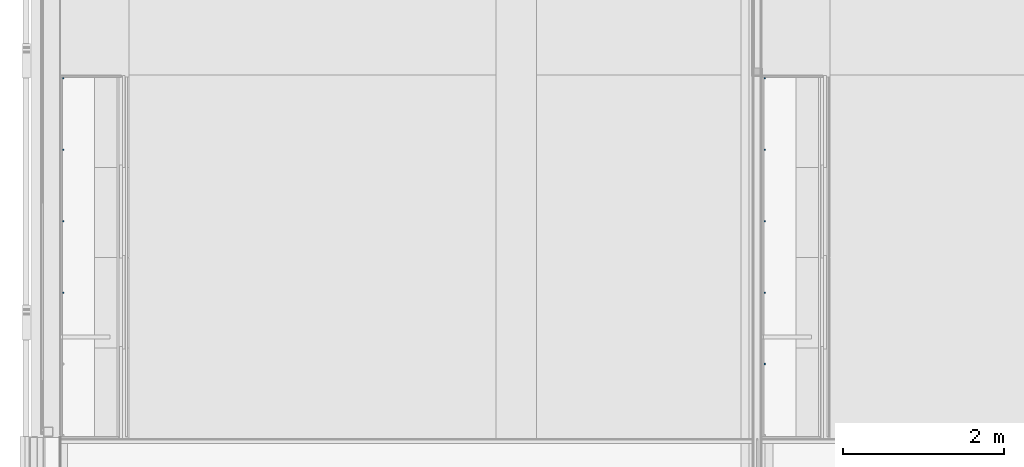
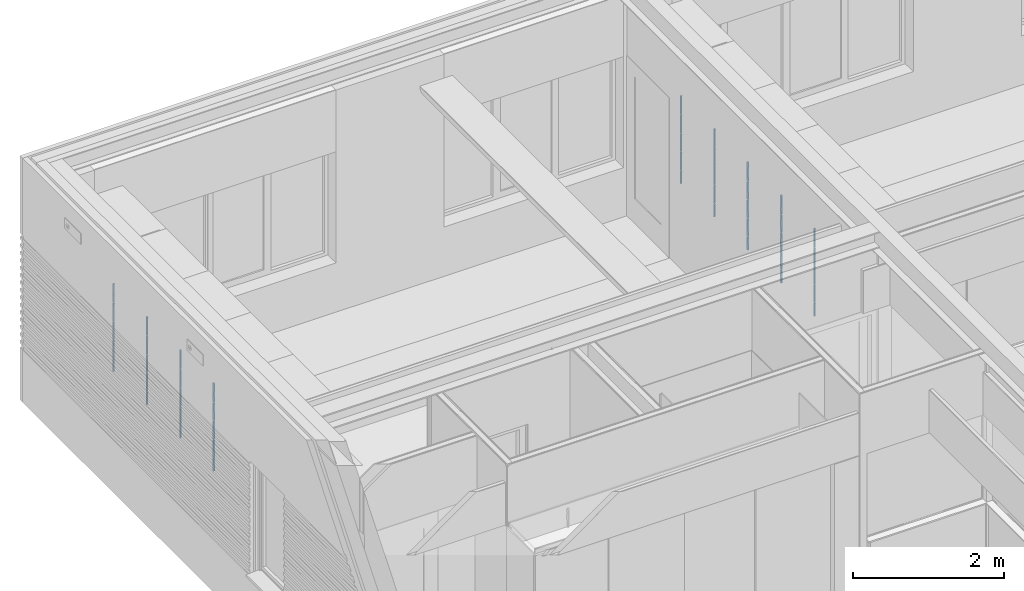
# One storey, part 9 of 137: 9 columns.
"""IFC2X3 building model written with IfcOpenShell, lengths in millimetres."""

from ifc_helpers import new_model, entity, si_unit, converted_unit, derived_unit, money_unit, direction, frame, origin_with_axes, place, context, subcontext, project, spatial, faceted_brep, material, type_object, element, save


model = new_model("IFC2X3")

# Units and contexts
model_context = context("Model", 3, precision=0.01, world=origin_with_axes(), true_north=direction((0.0, 1.0)))
body_context = subcontext(model_context, "Body", "Model", "MODEL_VIEW")
ifc_project = project(units=[si_unit("LENGTHUNIT", "METRE", prefix="MILLI"), si_unit("AREAUNIT", "SQUARE_METRE"), si_unit("VOLUMEUNIT", "CUBIC_METRE"), converted_unit("PLANEANGLEUNIT", "DEGREE", entity("IfcPlaneAngleMeasure", 0.0174532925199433), si_unit("PLANEANGLEUNIT", "RADIAN"), dimensions=[0, 0, 0, 0, 0, 0, 0]), money_unit("EUR"), converted_unit("TIMEUNIT", "Year", entity("IfcTimeMeasure", 31556926.0), si_unit("TIMEUNIT", "SECOND"), dimensions=[0, 0, 1, 0, 0, 0, 0]), si_unit("MASSUNIT", "GRAM", prefix="KILO"), si_unit("THERMODYNAMICTEMPERATUREUNIT", "DEGREE_CELSIUS"), si_unit("LUMINOUSINTENSITYUNIT", "LUMEN"), si_unit("ENERGYUNIT", "JOULE", prefix="MEGA"), derived_unit("THERMALCONDUCTANCEUNIT", [(si_unit("POWERUNIT", "WATT"), 1), (si_unit("LENGTHUNIT", "METRE"), -1), (si_unit("THERMODYNAMICTEMPERATUREUNIT", "KELVIN"), -1)]), derived_unit("SPECIFICHEATCAPACITYUNIT", [(si_unit("ENERGYUNIT", "JOULE"), 1), (si_unit("MASSUNIT", "GRAM", prefix="KILO"), -1), (si_unit("THERMODYNAMICTEMPERATUREUNIT", "KELVIN"), -1)]), derived_unit("MASSDENSITYUNIT", [(si_unit("MASSUNIT", "GRAM", prefix="KILO"), 1), (si_unit("VOLUMEUNIT", "CUBIC_METRE"), -1)])], contexts=[model_context])

# Site, building, storey
site_placement = place(None, origin_with_axes())
site = spatial("IfcSite", under=ifc_project, at=site_placement, Name="Site", CompositionType="ELEMENT")
building_placement = place(site_placement, origin_with_axes())
building = spatial("IfcBuilding", under=site, at=building_placement, Name="Naam gebouw", CompositionType="ELEMENT")
storey_placement = place(building_placement, frame((0.0, 0.0, 3960.0), z_axis=(0.0, 0.0, 1.0), x_axis=(1.0, 0.0, 0.0)))
storey = spatial("IfcBuildingStorey", under=building, at=storey_placement, Name="1e verdieping", CompositionType="ELEMENT", Elevation=3960.0)

# Columns
ifc_material = material(Name="ALG - ALGEMEEN")
column_type = type_object("IfcColumnType", Name="ALG - ALGEMEEN 20 x 20", PredefinedType="COLUMN")
column_1_placement = place(storey_placement, frame((8942.500000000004, 25134.99984707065, 1182.0), z_axis=(0.0, 0.0, 1.0), x_axis=(1.0, 0.0, 0.0)))
element("IfcColumn", 1, at=column_1_placement, inside=storey, type_object=column_type, material=ifc_material, Name="28_Kolom-x", ObjectType="COLUMN", context=body_context, shape_type="Brep", body=[
    faceted_brep([(-8.000000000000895, 9.99999999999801, 0.0), (-8.000000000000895, 9.99999999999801, 198.0000000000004), (9.999999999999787, 9.99999999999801, 198.0000000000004), (9.999999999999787, 9.99999999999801, 0.0), (-8.000000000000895, -10.00000000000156, 0.0), (-8.000000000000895, -10.00000000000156, 198.0000000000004), (9.999999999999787, -10.00000000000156, 198.0000000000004), (9.999999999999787, -10.00000000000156, 0.0)], [[[0, 1, 2, 3]], [[4, 5, 1, 0]], [[5, 6, 2, 1]], [[3, 2, 6, 7]], [[3, 7, 4, 0]], [[7, 6, 5, 4]]]),
    faceted_brep([(9.999999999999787, -10.00000000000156, 1418.000000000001), (9.999999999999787, -10.00000000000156, 1118.0), (9.999999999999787, 9.99999999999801, 1118.0), (9.999999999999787, 9.99999999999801, 1418.000000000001), (-8.000000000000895, -10.00000000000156, 1418.000000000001), (-8.000000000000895, -10.00000000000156, 1118.0), (-8.000000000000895, 9.99999999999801, 1118.0), (-8.000000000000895, 9.99999999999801, 1418.000000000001)], [[[0, 1, 2, 3]], [[4, 5, 1, 0]], [[5, 6, 2, 1]], [[3, 2, 6, 7]], [[0, 3, 7, 4]], [[7, 6, 5, 4]]]),
    faceted_brep([(9.999999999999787, -10.00000000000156, 1098.000000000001), (9.999999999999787, -10.00000000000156, 818.0000000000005), (9.999999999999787, 9.99999999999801, 818.0000000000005), (9.999999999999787, 9.99999999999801, 1098.000000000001), (-8.000000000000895, -10.00000000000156, 1098.000000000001), (-8.000000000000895, -10.00000000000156, 818.0000000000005), (-8.000000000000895, 9.99999999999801, 818.0000000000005), (-8.000000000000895, 9.99999999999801, 1098.000000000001)], [[[0, 1, 2, 3]], [[4, 5, 1, 0]], [[5, 6, 2, 1]], [[3, 2, 6, 7]], [[4, 0, 3, 7]], [[7, 6, 5, 4]]]),
    faceted_brep([(9.999999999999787, -10.00000000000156, 798.0000000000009), (9.999999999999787, -10.00000000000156, 518.0000000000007), (9.999999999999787, 9.99999999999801, 518.0000000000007), (9.999999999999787, 9.99999999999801, 798.0000000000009), (-8.000000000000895, -10.00000000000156, 798.0000000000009), (-8.000000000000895, -10.00000000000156, 518.0000000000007), (-8.000000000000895, 9.99999999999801, 518.0000000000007), (-8.000000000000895, 9.99999999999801, 798.0000000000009)], [[[0, 1, 2, 3]], [[4, 5, 1, 0]], [[5, 6, 2, 1]], [[3, 2, 6, 7]], [[4, 0, 3, 7]], [[7, 6, 5, 4]]]),
    faceted_brep([(9.999999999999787, -10.00000000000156, 498.0000000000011), (9.999999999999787, -10.00000000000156, 218.0), (9.999999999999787, 9.99999999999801, 218.0), (9.999999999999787, 9.99999999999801, 498.0000000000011), (-8.000000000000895, -10.00000000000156, 498.0000000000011), (-8.000000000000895, -10.00000000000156, 218.0), (-8.000000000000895, 9.99999999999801, 218.0), (-8.000000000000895, 9.99999999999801, 498.0000000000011)], [[[0, 1, 2, 3]], [[4, 5, 1, 0]], [[5, 6, 2, 1]], [[3, 2, 6, 7]], [[4, 0, 3, 7]], [[7, 6, 5, 4]]]),
])
column_2_placement = place(storey_placement, frame((8942.500000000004, 26020.99984707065, 1182.0), z_axis=(0.0, 0.0, 1.0), x_axis=(1.0, 0.0, 0.0)))
element("IfcColumn", 2, at=column_2_placement, inside=storey, type_object=column_type, material=ifc_material, Name="28_Kolom-x", ObjectType="COLUMN", context=body_context, shape_type="Brep", body=[
    faceted_brep([(-8.000000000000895, 9.99999999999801, 0.0), (-8.000000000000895, 9.99999999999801, 198.0000000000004), (9.999999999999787, 9.99999999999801, 198.0000000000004), (9.999999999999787, 9.99999999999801, 0.0), (-8.000000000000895, -10.00000000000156, 0.0), (-8.000000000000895, -10.00000000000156, 198.0000000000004), (9.999999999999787, -10.00000000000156, 198.0000000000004), (9.999999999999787, -10.00000000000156, 0.0)], [[[0, 1, 2, 3]], [[4, 5, 1, 0]], [[5, 6, 2, 1]], [[3, 2, 6, 7]], [[3, 7, 4, 0]], [[7, 6, 5, 4]]]),
    faceted_brep([(9.999999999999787, -10.00000000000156, 1418.000000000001), (9.999999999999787, -10.00000000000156, 1118.0), (9.999999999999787, 9.99999999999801, 1118.0), (9.999999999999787, 9.99999999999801, 1418.000000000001), (-8.000000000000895, -10.00000000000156, 1418.000000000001), (-8.000000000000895, -10.00000000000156, 1118.0), (-8.000000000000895, 9.99999999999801, 1118.0), (-8.000000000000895, 9.99999999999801, 1418.000000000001)], [[[0, 1, 2, 3]], [[4, 5, 1, 0]], [[5, 6, 2, 1]], [[3, 2, 6, 7]], [[0, 3, 7, 4]], [[7, 6, 5, 4]]]),
    faceted_brep([(9.999999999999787, -10.00000000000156, 1098.000000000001), (9.999999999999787, -10.00000000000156, 818.0000000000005), (9.999999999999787, 9.99999999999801, 818.0000000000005), (9.999999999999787, 9.99999999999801, 1098.000000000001), (-8.000000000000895, -10.00000000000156, 1098.000000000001), (-8.000000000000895, -10.00000000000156, 818.0000000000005), (-8.000000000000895, 9.99999999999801, 818.0000000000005), (-8.000000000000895, 9.99999999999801, 1098.000000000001)], [[[0, 1, 2, 3]], [[4, 5, 1, 0]], [[5, 6, 2, 1]], [[3, 2, 6, 7]], [[4, 0, 3, 7]], [[7, 6, 5, 4]]]),
    faceted_brep([(9.999999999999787, -10.00000000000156, 798.0000000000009), (9.999999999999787, -10.00000000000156, 518.0000000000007), (9.999999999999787, 9.99999999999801, 518.0000000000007), (9.999999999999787, 9.99999999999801, 798.0000000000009), (-8.000000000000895, -10.00000000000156, 798.0000000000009), (-8.000000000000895, -10.00000000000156, 518.0000000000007), (-8.000000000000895, 9.99999999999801, 518.0000000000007), (-8.000000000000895, 9.99999999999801, 798.0000000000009)], [[[0, 1, 2, 3]], [[4, 5, 1, 0]], [[5, 6, 2, 1]], [[3, 2, 6, 7]], [[4, 0, 3, 7]], [[7, 6, 5, 4]]]),
    faceted_brep([(9.999999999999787, -10.00000000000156, 498.0000000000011), (9.999999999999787, -10.00000000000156, 218.0), (9.999999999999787, 9.99999999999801, 218.0), (9.999999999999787, 9.99999999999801, 498.0000000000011), (-8.000000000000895, -10.00000000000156, 498.0000000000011), (-8.000000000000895, -10.00000000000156, 218.0), (-8.000000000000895, 9.99999999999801, 218.0), (-8.000000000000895, 9.99999999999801, 498.0000000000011)], [[[0, 1, 2, 3]], [[4, 5, 1, 0]], [[5, 6, 2, 1]], [[3, 2, 6, 7]], [[4, 0, 3, 7]], [[7, 6, 5, 4]]]),
])
column_3_placement = place(storey_placement, frame((8942.500000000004, 26906.99984707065, 1182.0), z_axis=(0.0, 0.0, 1.0), x_axis=(1.0, 0.0, 0.0)))
element("IfcColumn", 3, at=column_3_placement, inside=storey, type_object=column_type, material=ifc_material, Name="28_Kolom-x", ObjectType="COLUMN", context=body_context, shape_type="Brep", body=[
    faceted_brep([(-8.000000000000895, 9.99999999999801, 0.0), (-8.000000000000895, 9.99999999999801, 198.0000000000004), (9.999999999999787, 9.99999999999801, 198.0000000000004), (9.999999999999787, 9.99999999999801, 0.0), (-8.000000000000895, -10.00000000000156, 0.0), (-8.000000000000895, -10.00000000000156, 198.0000000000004), (9.999999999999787, -10.00000000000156, 198.0000000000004), (9.999999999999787, -10.00000000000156, 0.0)], [[[0, 1, 2, 3]], [[4, 5, 1, 0]], [[5, 6, 2, 1]], [[3, 2, 6, 7]], [[3, 7, 4, 0]], [[7, 6, 5, 4]]]),
    faceted_brep([(9.999999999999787, -10.00000000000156, 1418.000000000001), (9.999999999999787, -10.00000000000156, 1118.0), (9.999999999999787, 9.99999999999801, 1118.0), (9.999999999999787, 9.99999999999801, 1418.000000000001), (-8.000000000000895, -10.00000000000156, 1418.000000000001), (-8.000000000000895, -10.00000000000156, 1118.0), (-8.000000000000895, 9.99999999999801, 1118.0), (-8.000000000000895, 9.99999999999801, 1418.000000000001)], [[[0, 1, 2, 3]], [[4, 5, 1, 0]], [[5, 6, 2, 1]], [[3, 2, 6, 7]], [[0, 3, 7, 4]], [[7, 6, 5, 4]]]),
    faceted_brep([(9.999999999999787, -10.00000000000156, 1098.000000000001), (9.999999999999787, -10.00000000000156, 818.0000000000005), (9.999999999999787, 9.99999999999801, 818.0000000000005), (9.999999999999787, 9.99999999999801, 1098.000000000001), (-8.000000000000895, -10.00000000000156, 1098.000000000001), (-8.000000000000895, -10.00000000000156, 818.0000000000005), (-8.000000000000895, 9.99999999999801, 818.0000000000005), (-8.000000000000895, 9.99999999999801, 1098.000000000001)], [[[0, 1, 2, 3]], [[4, 5, 1, 0]], [[5, 6, 2, 1]], [[3, 2, 6, 7]], [[4, 0, 3, 7]], [[7, 6, 5, 4]]]),
    faceted_brep([(9.999999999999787, -10.00000000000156, 798.0000000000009), (9.999999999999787, -10.00000000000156, 518.0000000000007), (9.999999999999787, 9.99999999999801, 518.0000000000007), (9.999999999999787, 9.99999999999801, 798.0000000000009), (-8.000000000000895, -10.00000000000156, 798.0000000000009), (-8.000000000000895, -10.00000000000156, 518.0000000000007), (-8.000000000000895, 9.99999999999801, 518.0000000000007), (-8.000000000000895, 9.99999999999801, 798.0000000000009)], [[[0, 1, 2, 3]], [[4, 5, 1, 0]], [[5, 6, 2, 1]], [[3, 2, 6, 7]], [[4, 0, 3, 7]], [[7, 6, 5, 4]]]),
    faceted_brep([(9.999999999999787, -10.00000000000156, 498.0000000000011), (9.999999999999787, -10.00000000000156, 218.0), (9.999999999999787, 9.99999999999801, 218.0), (9.999999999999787, 9.99999999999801, 498.0000000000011), (-8.000000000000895, -10.00000000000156, 498.0000000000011), (-8.000000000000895, -10.00000000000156, 218.0), (-8.000000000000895, 9.99999999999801, 218.0), (-8.000000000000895, 9.99999999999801, 498.0000000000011)], [[[0, 1, 2, 3]], [[4, 5, 1, 0]], [[5, 6, 2, 1]], [[3, 2, 6, 7]], [[4, 0, 3, 7]], [[7, 6, 5, 4]]]),
])
column_4_placement = place(storey_placement, frame((8942.500000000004, 27792.99984707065, 1182.0), z_axis=(0.0, 0.0, 1.0), x_axis=(1.0, 0.0, 0.0)))
element("IfcColumn", 4, at=column_4_placement, inside=storey, type_object=column_type, material=ifc_material, Name="28_Kolom-x", ObjectType="COLUMN", context=body_context, shape_type="Brep", body=[
    faceted_brep([(-8.000000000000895, 9.99999999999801, 0.0), (-8.000000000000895, 9.99999999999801, 198.0000000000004), (9.999999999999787, 9.99999999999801, 198.0000000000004), (9.999999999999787, 9.99999999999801, 0.0), (-8.000000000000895, -10.00000000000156, 0.0), (-8.000000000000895, -10.00000000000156, 198.0000000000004), (9.999999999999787, -10.00000000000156, 198.0000000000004), (9.999999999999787, -10.00000000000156, 0.0)], [[[0, 1, 2, 3]], [[4, 5, 1, 0]], [[5, 6, 2, 1]], [[3, 2, 6, 7]], [[3, 7, 4, 0]], [[7, 6, 5, 4]]]),
    faceted_brep([(9.999999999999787, -10.00000000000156, 1418.000000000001), (9.999999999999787, -10.00000000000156, 1118.0), (9.999999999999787, 9.99999999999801, 1118.0), (9.999999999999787, 9.99999999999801, 1418.000000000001), (-8.000000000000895, -10.00000000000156, 1418.000000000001), (-8.000000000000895, -10.00000000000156, 1118.0), (-8.000000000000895, 9.99999999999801, 1118.0), (-8.000000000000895, 9.99999999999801, 1418.000000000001)], [[[0, 1, 2, 3]], [[4, 5, 1, 0]], [[5, 6, 2, 1]], [[3, 2, 6, 7]], [[0, 3, 7, 4]], [[7, 6, 5, 4]]]),
    faceted_brep([(9.999999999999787, -10.00000000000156, 1098.000000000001), (9.999999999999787, -10.00000000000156, 818.0000000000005), (9.999999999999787, 9.99999999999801, 818.0000000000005), (9.999999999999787, 9.99999999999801, 1098.000000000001), (-8.000000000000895, -10.00000000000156, 1098.000000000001), (-8.000000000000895, -10.00000000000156, 818.0000000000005), (-8.000000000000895, 9.99999999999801, 818.0000000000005), (-8.000000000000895, 9.99999999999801, 1098.000000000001)], [[[0, 1, 2, 3]], [[4, 5, 1, 0]], [[5, 6, 2, 1]], [[3, 2, 6, 7]], [[4, 0, 3, 7]], [[7, 6, 5, 4]]]),
    faceted_brep([(9.999999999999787, -10.00000000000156, 798.0000000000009), (9.999999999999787, -10.00000000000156, 518.0000000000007), (9.999999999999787, 9.99999999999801, 518.0000000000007), (9.999999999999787, 9.99999999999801, 798.0000000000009), (-8.000000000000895, -10.00000000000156, 798.0000000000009), (-8.000000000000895, -10.00000000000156, 518.0000000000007), (-8.000000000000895, 9.99999999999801, 518.0000000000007), (-8.000000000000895, 9.99999999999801, 798.0000000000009)], [[[0, 1, 2, 3]], [[4, 5, 1, 0]], [[5, 6, 2, 1]], [[3, 2, 6, 7]], [[4, 0, 3, 7]], [[7, 6, 5, 4]]]),
    faceted_brep([(9.999999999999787, -10.00000000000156, 498.0000000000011), (9.999999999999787, -10.00000000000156, 218.0), (9.999999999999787, 9.99999999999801, 218.0), (9.999999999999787, 9.99999999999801, 498.0000000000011), (-8.000000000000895, -10.00000000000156, 498.0000000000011), (-8.000000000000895, -10.00000000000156, 218.0), (-8.000000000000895, 9.99999999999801, 218.0), (-8.000000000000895, 9.99999999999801, 498.0000000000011)], [[[0, 1, 2, 3]], [[4, 5, 1, 0]], [[5, 6, 2, 1]], [[3, 2, 6, 7]], [[4, 0, 3, 7]], [[7, 6, 5, 4]]]),
])
column_5_placement = place(storey_placement, frame((8942.500000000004, 24248.99984707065, 1182.0), z_axis=(0.0, 0.0, 1.0), x_axis=(1.0, 0.0, 0.0)))
element("IfcColumn", 5, at=column_5_placement, inside=storey, type_object=column_type, material=ifc_material, Name="28_Kolom-x", ObjectType="COLUMN", context=body_context, shape_type="Brep", body=[
    faceted_brep([(-8.000000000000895, 9.99999999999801, 0.0), (-8.000000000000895, 9.99999999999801, 198.0000000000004), (9.999999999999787, 9.99999999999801, 198.0000000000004), (9.999999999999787, 9.99999999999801, 0.0), (-8.000000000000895, -10.00000000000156, 0.0), (-8.000000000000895, -10.00000000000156, 198.0000000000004), (9.999999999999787, -10.00000000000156, 198.0000000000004), (9.999999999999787, -10.00000000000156, 0.0)], [[[0, 1, 2, 3]], [[4, 5, 1, 0]], [[5, 6, 2, 1]], [[3, 2, 6, 7]], [[3, 7, 4, 0]], [[7, 6, 5, 4]]]),
    faceted_brep([(9.999999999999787, -10.00000000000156, 1418.000000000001), (9.999999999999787, -10.00000000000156, 1118.0), (9.999999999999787, 9.99999999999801, 1118.0), (9.999999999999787, 9.99999999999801, 1418.000000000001), (-8.000000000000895, -10.00000000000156, 1418.000000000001), (-8.000000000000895, -10.00000000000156, 1118.0), (-8.000000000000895, 9.99999999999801, 1118.0), (-8.000000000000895, 9.99999999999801, 1418.000000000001)], [[[0, 1, 2, 3]], [[4, 5, 1, 0]], [[5, 6, 2, 1]], [[3, 2, 6, 7]], [[0, 3, 7, 4]], [[7, 6, 5, 4]]]),
    faceted_brep([(9.999999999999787, -10.00000000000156, 1098.000000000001), (9.999999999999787, -10.00000000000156, 818.0000000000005), (9.999999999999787, 9.99999999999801, 818.0000000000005), (9.999999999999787, 9.99999999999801, 1098.000000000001), (-8.000000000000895, -10.00000000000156, 1098.000000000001), (-8.000000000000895, -10.00000000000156, 818.0000000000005), (-8.000000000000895, 9.99999999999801, 818.0000000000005), (-8.000000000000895, 9.99999999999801, 1098.000000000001)], [[[0, 1, 2, 3]], [[4, 5, 1, 0]], [[5, 6, 2, 1]], [[3, 2, 6, 7]], [[4, 0, 3, 7]], [[7, 6, 5, 4]]]),
    faceted_brep([(9.999999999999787, -10.00000000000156, 798.0000000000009), (9.999999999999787, -10.00000000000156, 518.0000000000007), (9.999999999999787, 9.99999999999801, 518.0000000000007), (9.999999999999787, 9.99999999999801, 798.0000000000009), (-8.000000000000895, -10.00000000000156, 798.0000000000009), (-8.000000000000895, -10.00000000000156, 518.0000000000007), (-8.000000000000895, 9.99999999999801, 518.0000000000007), (-8.000000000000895, 9.99999999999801, 798.0000000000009)], [[[0, 1, 2, 3]], [[4, 5, 1, 0]], [[5, 6, 2, 1]], [[3, 2, 6, 7]], [[4, 0, 3, 7]], [[7, 6, 5, 4]]]),
    faceted_brep([(9.999999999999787, -10.00000000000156, 498.0000000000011), (9.999999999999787, -10.00000000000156, 218.0), (9.999999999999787, 9.99999999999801, 218.0), (9.999999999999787, 9.99999999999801, 498.0000000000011), (-8.000000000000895, -10.00000000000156, 498.0000000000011), (-8.000000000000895, -10.00000000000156, 218.0), (-8.000000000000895, 9.99999999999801, 218.0), (-8.000000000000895, 9.99999999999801, 498.0000000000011)], [[[0, 1, 2, 3]], [[4, 5, 1, 0]], [[5, 6, 2, 1]], [[3, 2, 6, 7]], [[4, 0, 3, 7]], [[7, 6, 5, 4]]]),
])
column_6_placement = place(storey_placement, frame((244.0000000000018, 25134.99984707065, 1182.0), z_axis=(0.0, 0.0, 1.0), x_axis=(1.0, 0.0, 0.0)))
element("IfcColumn", 6, at=column_6_placement, inside=storey, type_object=column_type, material=ifc_material, Name="28_Kolom-x", ObjectType="COLUMN", context=body_context, shape_type="Brep", body=[
    faceted_brep([(-8.000000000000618, 9.99999999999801, 0.0), (-8.000000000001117, 9.99999999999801, 198.0000000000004), (10.00000000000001, 9.99999999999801, 198.0000000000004), (10.00000000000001, 9.99999999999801, 0.0), (-8.000000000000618, -10.00000000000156, 0.0), (-8.000000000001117, -10.00000000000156, 198.0000000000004), (10.00000000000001, -10.00000000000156, 198.0000000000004), (10.00000000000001, -10.00000000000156, 0.0)], [[[0, 1, 2, 3]], [[4, 5, 1, 0]], [[5, 6, 2, 1]], [[3, 2, 6, 7]], [[3, 7, 4, 0]], [[7, 6, 5, 4]]]),
    faceted_brep([(10.00000000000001, -10.00000000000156, 1418.000000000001), (10.00000000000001, -10.00000000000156, 1118.0), (10.00000000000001, 9.99999999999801, 1118.0), (10.00000000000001, 9.99999999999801, 1418.000000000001), (-8.000000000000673, -10.00000000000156, 1418.000000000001), (-8.000000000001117, -10.00000000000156, 1118.0), (-8.000000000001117, 9.99999999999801, 1118.0), (-8.000000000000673, 9.99999999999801, 1418.000000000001)], [[[0, 1, 2, 3]], [[4, 5, 1, 0]], [[5, 6, 2, 1]], [[3, 2, 6, 7]], [[0, 3, 7, 4]], [[7, 6, 5, 4]]]),
    faceted_brep([(10.00000000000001, -10.00000000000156, 1098.000000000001), (10.00000000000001, -10.00000000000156, 818.0000000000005), (10.00000000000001, 9.99999999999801, 818.0000000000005), (10.00000000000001, 9.99999999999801, 1098.000000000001), (-8.000000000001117, -10.00000000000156, 1098.000000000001), (-8.000000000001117, -10.00000000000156, 818.0000000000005), (-8.000000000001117, 9.99999999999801, 818.0000000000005), (-8.000000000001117, 9.99999999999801, 1098.000000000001)], [[[0, 1, 2, 3]], [[4, 5, 1, 0]], [[5, 6, 2, 1]], [[3, 2, 6, 7]], [[4, 0, 3, 7]], [[7, 6, 5, 4]]]),
    faceted_brep([(10.00000000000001, -10.00000000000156, 798.0000000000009), (10.00000000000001, -10.00000000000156, 518.0000000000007), (10.00000000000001, 9.99999999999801, 518.0000000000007), (10.00000000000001, 9.99999999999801, 798.0000000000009), (-8.000000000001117, -10.00000000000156, 798.0000000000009), (-8.000000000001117, -10.00000000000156, 518.0000000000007), (-8.000000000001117, 9.99999999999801, 518.0000000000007), (-8.000000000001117, 9.99999999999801, 798.0000000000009)], [[[0, 1, 2, 3]], [[4, 5, 1, 0]], [[5, 6, 2, 1]], [[3, 2, 6, 7]], [[4, 0, 3, 7]], [[7, 6, 5, 4]]]),
    faceted_brep([(10.00000000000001, -10.00000000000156, 498.0000000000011), (10.00000000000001, -10.00000000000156, 218.0), (10.00000000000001, 9.99999999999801, 218.0), (10.00000000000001, 9.99999999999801, 498.0000000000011), (-8.000000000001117, -10.00000000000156, 498.0000000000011), (-8.000000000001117, -10.00000000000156, 218.0), (-8.000000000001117, 9.99999999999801, 218.0), (-8.000000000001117, 9.99999999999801, 498.0000000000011)], [[[0, 1, 2, 3]], [[4, 5, 1, 0]], [[5, 6, 2, 1]], [[3, 2, 6, 7]], [[4, 0, 3, 7]], [[7, 6, 5, 4]]]),
])
column_7_placement = place(storey_placement, frame((244.0000000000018, 26906.99984707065, 1182.0), z_axis=(0.0, 0.0, 1.0), x_axis=(1.0, 0.0, 0.0)))
element("IfcColumn", 7, at=column_7_placement, inside=storey, type_object=column_type, material=ifc_material, Name="28_Kolom-x", ObjectType="COLUMN", context=body_context, shape_type="Brep", body=[
    faceted_brep([(-8.000000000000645, 9.99999999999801, 0.0), (-8.000000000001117, 9.99999999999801, 198.0000000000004), (10.00000000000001, 9.99999999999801, 198.0000000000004), (10.00000000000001, 9.99999999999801, 0.0), (-8.000000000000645, -10.00000000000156, 0.0), (-8.000000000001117, -10.00000000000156, 198.0000000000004), (10.00000000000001, -10.00000000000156, 198.0000000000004), (10.00000000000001, -10.00000000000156, 0.0)], [[[0, 1, 2, 3]], [[4, 5, 1, 0]], [[5, 6, 2, 1]], [[3, 2, 6, 7]], [[3, 7, 4, 0]], [[7, 6, 5, 4]]]),
    faceted_brep([(10.00000000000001, -10.00000000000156, 1418.000000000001), (10.00000000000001, -10.00000000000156, 1118.0), (10.00000000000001, 9.99999999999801, 1118.0), (10.00000000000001, 9.99999999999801, 1418.000000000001), (-8.000000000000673, -10.00000000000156, 1418.000000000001), (-8.000000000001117, -10.00000000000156, 1118.0), (-8.000000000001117, 9.99999999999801, 1118.0), (-8.000000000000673, 9.99999999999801, 1418.000000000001)], [[[0, 1, 2, 3]], [[4, 5, 1, 0]], [[5, 6, 2, 1]], [[3, 2, 6, 7]], [[0, 3, 7, 4]], [[7, 6, 5, 4]]]),
    faceted_brep([(10.00000000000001, -10.00000000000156, 1098.000000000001), (10.00000000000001, -10.00000000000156, 818.0000000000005), (10.00000000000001, 9.99999999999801, 818.0000000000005), (10.00000000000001, 9.99999999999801, 1098.000000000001), (-8.000000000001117, -10.00000000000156, 1098.000000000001), (-8.000000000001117, -10.00000000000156, 818.0000000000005), (-8.000000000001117, 9.99999999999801, 818.0000000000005), (-8.000000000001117, 9.99999999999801, 1098.000000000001)], [[[0, 1, 2, 3]], [[4, 5, 1, 0]], [[5, 6, 2, 1]], [[3, 2, 6, 7]], [[4, 0, 3, 7]], [[7, 6, 5, 4]]]),
    faceted_brep([(10.00000000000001, -10.00000000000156, 798.0000000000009), (10.00000000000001, -10.00000000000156, 518.0000000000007), (10.00000000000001, 9.99999999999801, 518.0000000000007), (10.00000000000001, 9.99999999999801, 798.0000000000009), (-8.000000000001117, -10.00000000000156, 798.0000000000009), (-8.000000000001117, -10.00000000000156, 518.0000000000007), (-8.000000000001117, 9.99999999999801, 518.0000000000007), (-8.000000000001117, 9.99999999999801, 798.0000000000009)], [[[0, 1, 2, 3]], [[4, 5, 1, 0]], [[5, 6, 2, 1]], [[3, 2, 6, 7]], [[4, 0, 3, 7]], [[7, 6, 5, 4]]]),
    faceted_brep([(10.00000000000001, -10.00000000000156, 498.0000000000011), (10.00000000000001, -10.00000000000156, 218.0), (10.00000000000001, 9.99999999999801, 218.0), (10.00000000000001, 9.99999999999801, 498.0000000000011), (-8.000000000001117, -10.00000000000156, 498.0000000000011), (-8.000000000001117, -10.00000000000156, 218.0), (-8.000000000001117, 9.99999999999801, 218.0), (-8.000000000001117, 9.99999999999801, 498.0000000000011)], [[[0, 1, 2, 3]], [[4, 5, 1, 0]], [[5, 6, 2, 1]], [[3, 2, 6, 7]], [[4, 0, 3, 7]], [[7, 6, 5, 4]]]),
])
column_8_placement = place(storey_placement, frame((244.0000000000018, 26020.99984707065, 1182.0), z_axis=(0.0, 0.0, 1.0), x_axis=(1.0, 0.0, 0.0)))
element("IfcColumn", 8, at=column_8_placement, inside=storey, type_object=column_type, material=ifc_material, Name="28_Kolom-x", ObjectType="COLUMN", context=body_context, shape_type="Brep", body=[
    faceted_brep([(-8.000000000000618, 9.99999999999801, 0.0), (-8.000000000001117, 9.99999999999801, 198.0000000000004), (10.00000000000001, 9.99999999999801, 198.0000000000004), (10.00000000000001, 9.99999999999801, 0.0), (-8.000000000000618, -10.00000000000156, 0.0), (-8.000000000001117, -10.00000000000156, 198.0000000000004), (10.00000000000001, -10.00000000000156, 198.0000000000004), (10.00000000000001, -10.00000000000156, 0.0)], [[[0, 1, 2, 3]], [[4, 5, 1, 0]], [[5, 6, 2, 1]], [[3, 2, 6, 7]], [[3, 7, 4, 0]], [[7, 6, 5, 4]]]),
    faceted_brep([(10.00000000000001, -10.00000000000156, 1418.000000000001), (10.00000000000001, -10.00000000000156, 1118.0), (10.00000000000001, 9.99999999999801, 1118.0), (10.00000000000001, 9.99999999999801, 1418.000000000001), (-8.000000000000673, -10.00000000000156, 1418.000000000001), (-8.000000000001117, -10.00000000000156, 1118.0), (-8.000000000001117, 9.99999999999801, 1118.0), (-8.000000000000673, 9.99999999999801, 1418.000000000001)], [[[0, 1, 2, 3]], [[4, 5, 1, 0]], [[5, 6, 2, 1]], [[3, 2, 6, 7]], [[0, 3, 7, 4]], [[7, 6, 5, 4]]]),
    faceted_brep([(10.00000000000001, -10.00000000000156, 1098.000000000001), (10.00000000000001, -10.00000000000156, 818.0000000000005), (10.00000000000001, 9.99999999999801, 818.0000000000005), (10.00000000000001, 9.99999999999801, 1098.000000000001), (-8.000000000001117, -10.00000000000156, 1098.000000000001), (-8.000000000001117, -10.00000000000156, 818.0000000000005), (-8.000000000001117, 9.99999999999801, 818.0000000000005), (-8.000000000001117, 9.99999999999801, 1098.000000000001)], [[[0, 1, 2, 3]], [[4, 5, 1, 0]], [[5, 6, 2, 1]], [[3, 2, 6, 7]], [[4, 0, 3, 7]], [[7, 6, 5, 4]]]),
    faceted_brep([(10.00000000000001, -10.00000000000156, 798.0000000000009), (10.00000000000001, -10.00000000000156, 518.0000000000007), (10.00000000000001, 9.99999999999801, 518.0000000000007), (10.00000000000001, 9.99999999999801, 798.0000000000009), (-8.000000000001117, -10.00000000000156, 798.0000000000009), (-8.000000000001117, -10.00000000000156, 518.0000000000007), (-8.000000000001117, 9.99999999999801, 518.0000000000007), (-8.000000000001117, 9.99999999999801, 798.0000000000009)], [[[0, 1, 2, 3]], [[4, 5, 1, 0]], [[5, 6, 2, 1]], [[3, 2, 6, 7]], [[4, 0, 3, 7]], [[7, 6, 5, 4]]]),
    faceted_brep([(10.00000000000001, -10.00000000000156, 498.0000000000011), (10.00000000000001, -10.00000000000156, 218.0), (10.00000000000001, 9.99999999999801, 218.0), (10.00000000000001, 9.99999999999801, 498.0000000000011), (-8.000000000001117, -10.00000000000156, 498.0000000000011), (-8.000000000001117, -10.00000000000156, 218.0), (-8.000000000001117, 9.99999999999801, 218.0), (-8.000000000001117, 9.99999999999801, 498.0000000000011)], [[[0, 1, 2, 3]], [[4, 5, 1, 0]], [[5, 6, 2, 1]], [[3, 2, 6, 7]], [[4, 0, 3, 7]], [[7, 6, 5, 4]]]),
])
column_9_placement = place(storey_placement, frame((244.0000000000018, 27792.99984707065, 1182.0), z_axis=(0.0, 0.0, 1.0), x_axis=(1.0, 0.0, 0.0)))
element("IfcColumn", 9, at=column_9_placement, inside=storey, type_object=column_type, material=ifc_material, Name="28_Kolom-x", ObjectType="COLUMN", context=body_context, shape_type="Brep", body=[
    faceted_brep([(-8.000000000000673, 9.99999999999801, 0.0), (-8.000000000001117, 9.99999999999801, 198.0000000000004), (10.00000000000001, 9.99999999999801, 198.0000000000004), (10.00000000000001, 9.99999999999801, 0.0), (-8.000000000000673, -10.00000000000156, 0.0), (-8.000000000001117, -10.00000000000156, 198.0000000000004), (10.00000000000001, -10.00000000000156, 198.0000000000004), (10.00000000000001, -10.00000000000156, 0.0)], [[[0, 1, 2, 3]], [[4, 5, 1, 0]], [[5, 6, 2, 1]], [[3, 2, 6, 7]], [[3, 7, 4, 0]], [[7, 6, 5, 4]]]),
    faceted_brep([(10.00000000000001, -10.00000000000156, 1418.000000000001), (10.00000000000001, -10.00000000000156, 1118.0), (10.00000000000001, 9.99999999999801, 1118.0), (10.00000000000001, 9.99999999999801, 1418.000000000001), (-8.000000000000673, -10.00000000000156, 1418.000000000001), (-8.000000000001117, -10.00000000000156, 1118.0), (-8.000000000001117, 9.99999999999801, 1118.0), (-8.000000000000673, 9.99999999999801, 1418.000000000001)], [[[0, 1, 2, 3]], [[4, 5, 1, 0]], [[5, 6, 2, 1]], [[3, 2, 6, 7]], [[0, 3, 7, 4]], [[7, 6, 5, 4]]]),
    faceted_brep([(10.00000000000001, -10.00000000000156, 1098.000000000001), (10.00000000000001, -10.00000000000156, 818.0000000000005), (10.00000000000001, 9.99999999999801, 818.0000000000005), (10.00000000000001, 9.99999999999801, 1098.000000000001), (-8.000000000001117, -10.00000000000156, 1098.000000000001), (-8.000000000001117, -10.00000000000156, 818.0000000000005), (-8.000000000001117, 9.99999999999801, 818.0000000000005), (-8.000000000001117, 9.99999999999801, 1098.000000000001)], [[[0, 1, 2, 3]], [[4, 5, 1, 0]], [[5, 6, 2, 1]], [[3, 2, 6, 7]], [[4, 0, 3, 7]], [[7, 6, 5, 4]]]),
    faceted_brep([(10.00000000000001, -10.00000000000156, 798.0000000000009), (10.00000000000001, -10.00000000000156, 518.0000000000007), (10.00000000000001, 9.99999999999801, 518.0000000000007), (10.00000000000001, 9.99999999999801, 798.0000000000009), (-8.000000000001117, -10.00000000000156, 798.0000000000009), (-8.000000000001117, -10.00000000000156, 518.0000000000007), (-8.000000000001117, 9.99999999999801, 518.0000000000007), (-8.000000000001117, 9.99999999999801, 798.0000000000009)], [[[0, 1, 2, 3]], [[4, 5, 1, 0]], [[5, 6, 2, 1]], [[3, 2, 6, 7]], [[4, 0, 3, 7]], [[7, 6, 5, 4]]]),
    faceted_brep([(10.00000000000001, -10.00000000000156, 498.0000000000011), (10.00000000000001, -10.00000000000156, 218.0), (10.00000000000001, 9.99999999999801, 218.0), (10.00000000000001, 9.99999999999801, 498.0000000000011), (-8.000000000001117, -10.00000000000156, 498.0000000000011), (-8.000000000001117, -10.00000000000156, 218.0), (-8.000000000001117, 9.99999999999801, 218.0), (-8.000000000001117, 9.99999999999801, 498.0000000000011)], [[[0, 1, 2, 3]], [[4, 5, 1, 0]], [[5, 6, 2, 1]], [[3, 2, 6, 7]], [[4, 0, 3, 7]], [[7, 6, 5, 4]]]),
])

save(model, "model.ifc")
